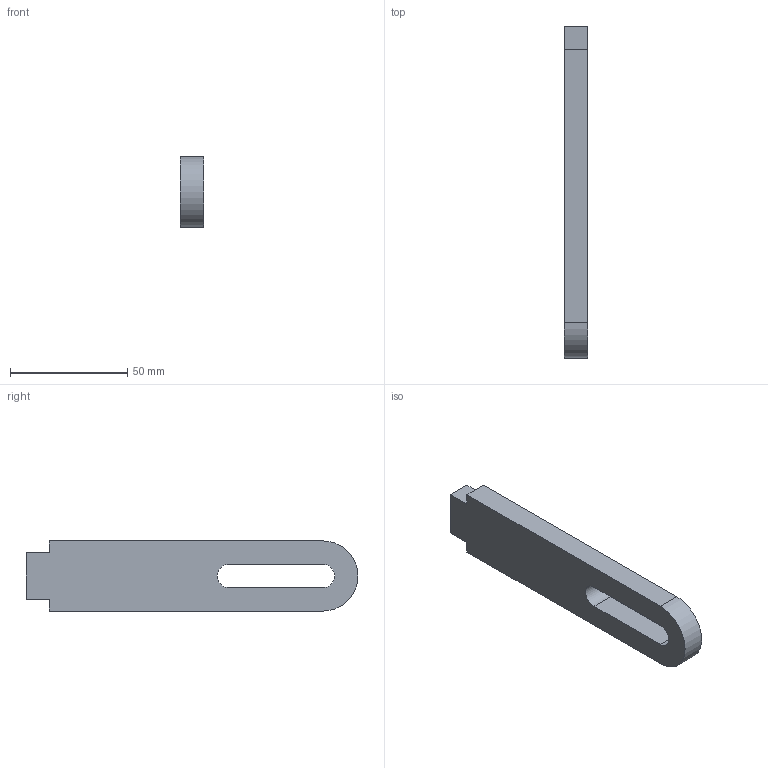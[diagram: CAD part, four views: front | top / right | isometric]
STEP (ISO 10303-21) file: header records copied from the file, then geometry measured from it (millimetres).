
FILE_DESCRIPTION(('CATIA V5 STEP Exchange'),'2;1');
FILE_NAME('C:\Users\gener\Documents\Lijadora Javitxu corte laser\sufridera pieza 1.stp','2022-08-29T05:39:50+00:00',('none'),('none'),'CATIA Version 5 Release 20 GA (IN-10)','CATIA V5 STEP AP203','none');
FILE_SCHEMA(('CONFIG_CONTROL_DESIGN'));
Length unit declared in the file: millimetre
Products named in the file (1): sufridera pieza 1
Bounding box: 10 x 141.68 x 30 mm (x, y, z)
Volume: 35754.2 mm3; surface area: 11569.9 mm2
Topology: 1 solids, 1 shells, 15 faces, 39 edges, 26 vertices
Faces by surface type: plane 12, cylinder 3
Entity records: 489 total; most frequent: CARTESIAN_POINT 79, ORIENTED_EDGE 78, DIRECTION 65, EDGE_CURVE 39, VECTOR 33, LINE 33, VERTEX_POINT 26, AXIS2_PLACEMENT_3D 20
